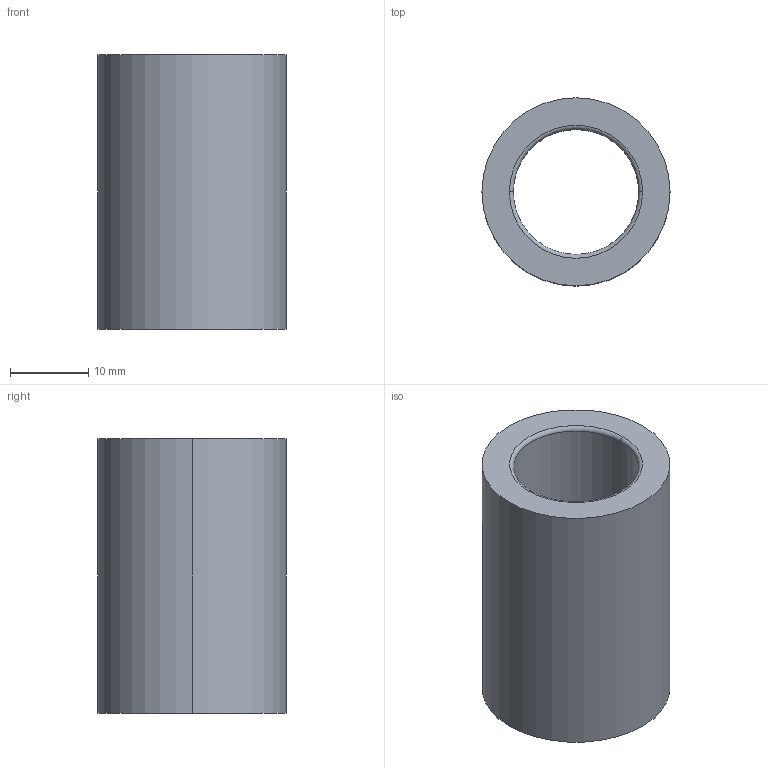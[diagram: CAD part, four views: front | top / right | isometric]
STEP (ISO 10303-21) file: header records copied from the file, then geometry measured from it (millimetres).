
FILE_DESCRIPTION(/* description */ (''),/* implementation_level */ '2;1');
FILE_NAME(/* name */ '3d_sgbz16-35_00302_r00.stp',/* time_stamp */ '2011-01-10T14:11:12+09:00',/* author */ ('MISUMI'),/* organization */ (''),/* preprocessor_version */ 'ST-DEVELOPER v11',/* originating_system */ 'UGS - NX 5.0',/* authorisation */ '');
FILE_SCHEMA (('CONFIG_CONTROL_DESIGN'));
Length unit declared in the file: millimetre
Products named in the file (1): 3d_sgbz16-35_00302_r00
Bounding box: 24 x 24 x 35 mm (x, y, z)
Volume: 8791 mm3; surface area: 4879.5 mm2
Topology: 1 solids, 1 shells, 10 faces, 20 edges, 12 vertices
Faces by surface type: cylinder 4, torus 4, plane 2
Entity records: 358 total; most frequent: DIRECTION 58, CARTESIAN_POINT 43, ORIENTED_EDGE 40, AXIS2_PLACEMENT_3D 27, EDGE_CURVE 20, CIRCLE 16, EDGE_LOOP 12, VERTEX_POINT 12
